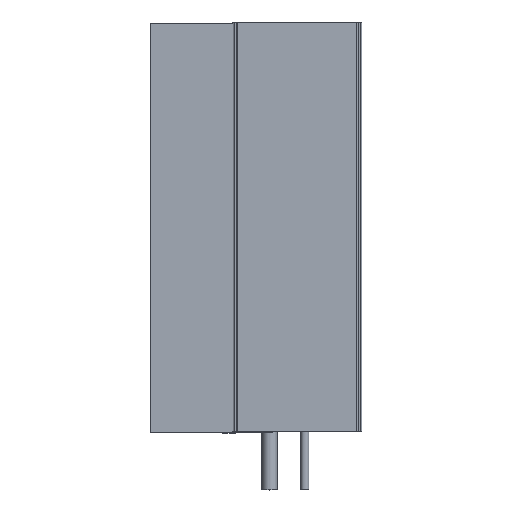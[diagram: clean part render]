
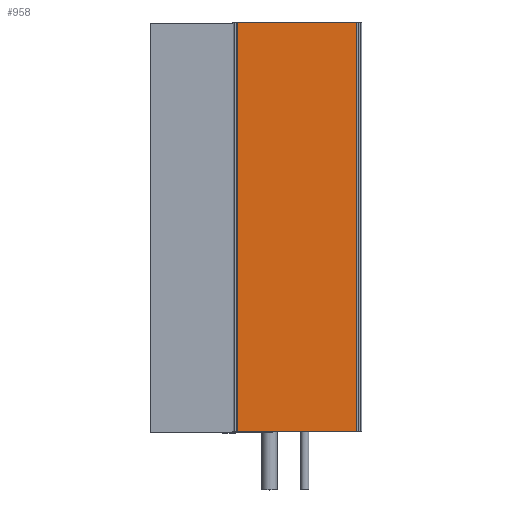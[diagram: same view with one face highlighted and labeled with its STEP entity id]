
A CAD part, top view. The second image highlights one B-rep face of the part: STEP entity #958.
In plain terms, the highlighted planar face has unit normal (0, 0, 1).
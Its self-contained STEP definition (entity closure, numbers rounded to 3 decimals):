
#958 = ADVANCED_FACE( '', ( #1987 ), #1988, .T. );
#1987 = FACE_OUTER_BOUND( '', #3015, .T. );
#1988 = PLANE( '', #3016 );
#3015 = EDGE_LOOP( '', ( #7210, #7211, #7212, #7213 ) );
#3016 = AXIS2_PLACEMENT_3D( '', #7214, #7215, #7216 );
#7210 = ORIENTED_EDGE( '', *, *, #8577, .F. );
#7211 = ORIENTED_EDGE( '', *, *, #8590, .F. );
#7212 = ORIENTED_EDGE( '', *, *, #8588, .T. );
#7213 = ORIENTED_EDGE( '', *, *, #8584, .T. );
#7214 = CARTESIAN_POINT( '', ( 36.5, 243.98, 27. ) );
#7215 = DIRECTION( '', ( 0., 0., 1. ) );
#7216 = DIRECTION( '', ( 1., 0., 0. ) );
#8577 = EDGE_CURVE( '', #10864, #10866, #10867, .T. );
#8584 = EDGE_CURVE( '', #10877, #10866, #10878, .T. );
#8588 = EDGE_CURVE( '', #10883, #10877, #10884, .T. );
#8590 = EDGE_CURVE( '', #10883, #10864, #10886, .T. );
#10864 = VERTEX_POINT( '', #14291 );
#10866 = VERTEX_POINT( '', #14294 );
#10867 = LINE( '', #14295, #14296 );
#10877 = VERTEX_POINT( '', #14312 );
#10878 = LINE( '', #14313, #14314 );
#10883 = VERTEX_POINT( '', #14322 );
#10884 = LINE( '', #14323, #14324 );
#10886 = LINE( '', #14327, #14328 );
#14291 = CARTESIAN_POINT( '', ( 36.5, 0., 27. ) );
#14294 = CARTESIAN_POINT( '', ( -36.5, 0., 27. ) );
#14295 = CARTESIAN_POINT( '', ( 36.5, 0., 27. ) );
#14296 = VECTOR( '', #16145, 1000. );
#14312 = CARTESIAN_POINT( '', ( -36.5, 243.98, 27. ) );
#14313 = CARTESIAN_POINT( '', ( -36.5, 243.98, 27. ) );
#14314 = VECTOR( '', #16152, 1000. );
#14322 = CARTESIAN_POINT( '', ( 36.5, 243.98, 27. ) );
#14323 = CARTESIAN_POINT( '', ( 36.5, 243.98, 27. ) );
#14324 = VECTOR( '', #16156, 1000. );
#14327 = CARTESIAN_POINT( '', ( 36.5, 243.98, 27. ) );
#14328 = VECTOR( '', #16158, 1000. );
#16145 = DIRECTION( '', ( -1., 0., 0. ) );
#16152 = DIRECTION( '', ( 0., -1., 0. ) );
#16156 = DIRECTION( '', ( -1., 0., 0. ) );
#16158 = DIRECTION( '', ( 0., -1., 0. ) );
